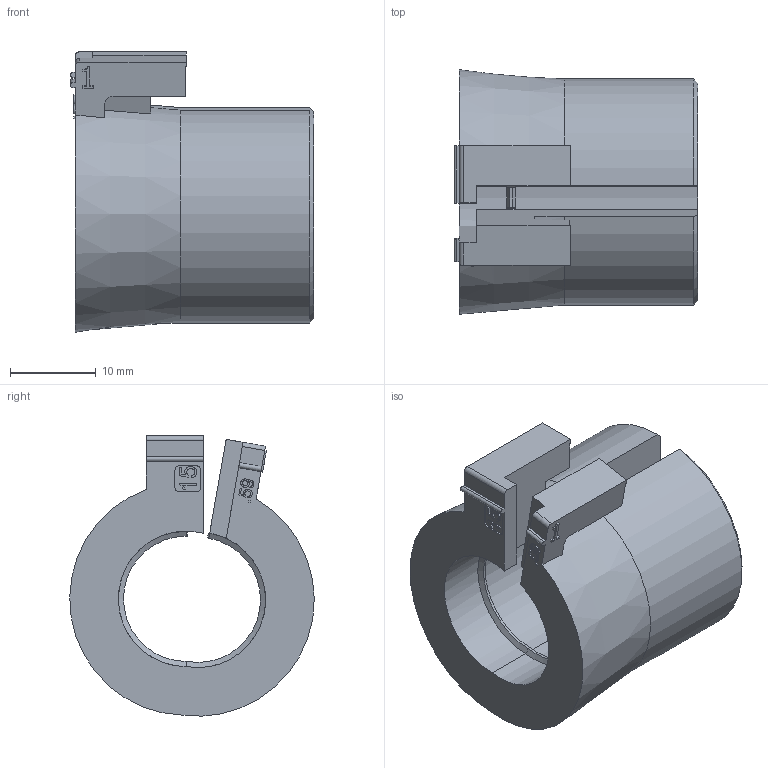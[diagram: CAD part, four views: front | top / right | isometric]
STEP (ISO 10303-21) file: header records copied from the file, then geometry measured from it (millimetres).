
FILE_DESCRIPTION(/* description */ (''),/* implementation_level */ '2;1');
FILE_NAME(/* name */ 'C:\SapWorkDir\Inventor\MP1\ConvertTempPath\87_12_121359_00_A_220530_KDT-X 15.stp',/* time_stamp */ '2022-05-31T12:48:37+02:00',/* author */ ('BAUER'),/* organization */ (''),/* preprocessor_version */ 'ST-DEVELOPER v16.13',/* originating_system */ 'Autodesk Inventor 2018',/* authorisation */ '');
FILE_SCHEMA (('AUTOMOTIVE_DESIGN { 1 0 10303 214 3 1 1 }'));
Length unit declared in the file: millimetre
Products named in the file (1): 121359
Bounding box: 28.4 x 28.51 x 32.68 mm (x, y, z)
Volume: 9278.9 mm3; surface area: 5100.5 mm2
Topology: 1 solids, 1 shells, 156 faces, 420 edges, 274 vertices
Faces by surface type: plane 91, bspline 33, cylinder 24, cone 8
Entity records: 5158 total; most frequent: CARTESIAN_POINT 1279, ORIENTED_EDGE 840, DIRECTION 653, EDGE_CURVE 420, LINE 289, VECTOR 289, VERTEX_POINT 274, AXIS2_PLACEMENT_3D 182
